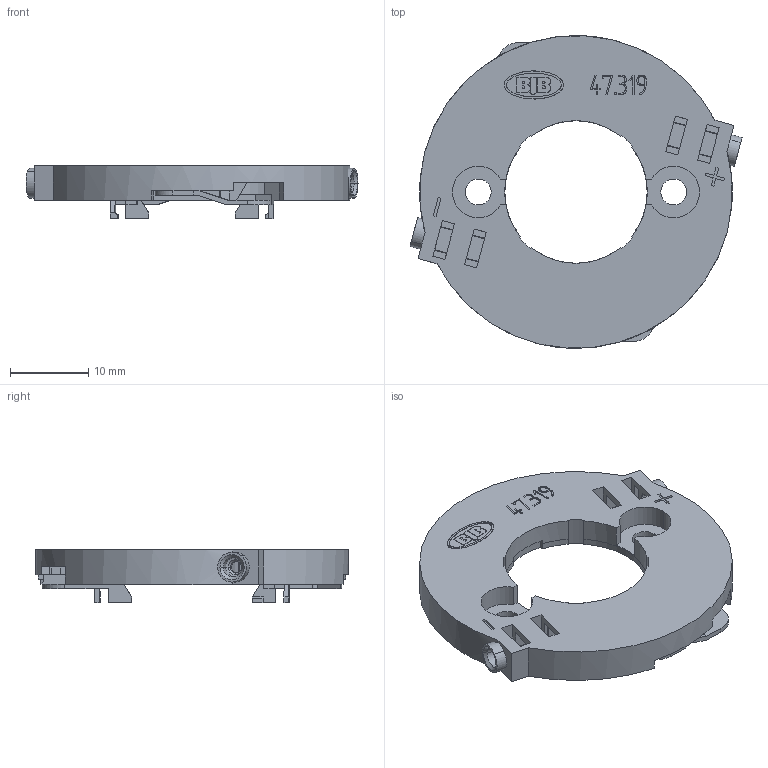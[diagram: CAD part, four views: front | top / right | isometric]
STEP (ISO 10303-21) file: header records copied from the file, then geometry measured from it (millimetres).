
FILE_DESCRIPTION(('CAx-IF Rec.Pracs.---Model Styling and Organization---1.2---2011-12-15','CAx-IF Rec.Pracs.---Geometric and Assembly Validation Properties---4.1---2014-06-16','CAx-IF Rec.Pracs.---PMI Polyline Presentation---2.0---2013-05-24'),'2;1');
FILE_NAME('01TYA7CY01.stp','2017-03-23T12:32:27+01:00',(''),(''),'STEP Interface 4.0 Sp1 by CT CoreTechnologie','3D_Evolution4.0 Sp1 by CT CoreTechnologie','');
FILE_SCHEMA(('AP203_CONFIGURATION_CONTROLLED_3D_DESIGN_OF_MECHANICAL_PARTS_AND_ASSEMBLIES_MIM_LF'));
Length unit declared in the file: metre
Products named in the file (3): 01T-A7C-01; 01T-A77-02; 01T-A5B-03
Assembly tree (3 placements, depth 2):
  01T-A7C-01
    01T-A77-02
    01T-A5B-03  x2
Bounding box: 42.46 x 40 x 6.85 mm (x, y, z)
Volume: 2506.6 mm3; surface area: 4850 mm2
Topology: 5 solids, 5 shells, 634 faces, 1782 edges, 1180 vertices
Faces by surface type: plane 494, cylinder 92, bspline 48
Entity records: 24279 total; most frequent: CARTESIAN_POINT 4489, ORIENTED_EDGE 3274, DIRECTION 2927, EDGE_CURVE 1637, VECTOR 1363, LINE 1363, VERTEX_POINT 1084, AXIS2_PLACEMENT_3D 782
